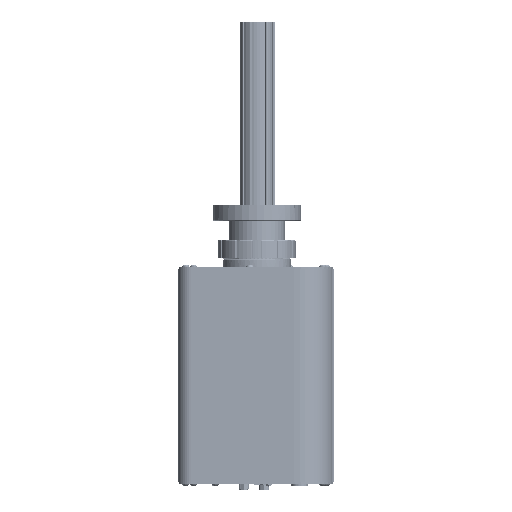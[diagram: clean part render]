
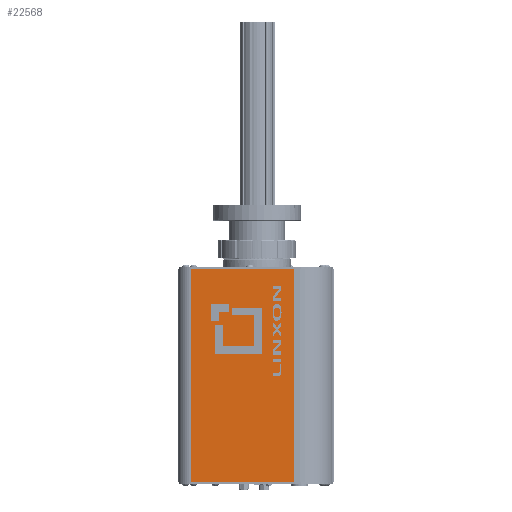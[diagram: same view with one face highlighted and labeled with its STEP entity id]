
A CAD part, left-side view. The second image highlights one B-rep face of the part: STEP entity #22568.
In plain terms, the highlighted planar face has unit normal (-1, 0, 0).
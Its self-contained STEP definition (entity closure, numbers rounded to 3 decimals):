
#5617=FACE_OUTER_BOUND('',#31292,.T.);
#11208=LINE('',#139824,#17299);
#11320=LINE('',#140149,#17411);
#11381=LINE('',#140307,#17472);
#11594=LINE('',#140790,#17685);
#17299=VECTOR('',#91725,1.);
#17411=VECTOR('',#91967,1.);
#17472=VECTOR('',#92072,1.);
#17685=VECTOR('',#92469,1.);
#22568=ADVANCED_FACE('',(#5617),#25158,.T.);
#25158=PLANE('',#76083);
#31292=EDGE_LOOP('',(#48051,#48052,#48053,#48054));
#48051=ORIENTED_EDGE('',*,*,#66946,.F.);
#48052=ORIENTED_EDGE('',*,*,#66865,.F.);
#48053=ORIENTED_EDGE('',*,*,#66705,.T.);
#48054=ORIENTED_EDGE('',*,*,#67200,.T.);
#57087=VERTEX_POINT('',#139823);
#57088=VERTEX_POINT('',#139825);
#57232=VERTEX_POINT('',#140150);
#57307=VERTEX_POINT('',#140308);
#66705=EDGE_CURVE('',#57088,#57087,#11208,.T.);
#66865=EDGE_CURVE('',#57088,#57232,#11320,.T.);
#66946=EDGE_CURVE('',#57232,#57307,#11381,.T.);
#67200=EDGE_CURVE('',#57087,#57307,#11594,.T.);
#76083=AXIS2_PLACEMENT_3D('',#140791,#92470,#92471);
#91725=DIRECTION('',(0.,1.,0.));
#91967=DIRECTION('',(0.,0.,-1.));
#92072=DIRECTION('',(0.,1.,0.));
#92469=DIRECTION('',(0.,0.,-1.));
#92470=DIRECTION('',(-1.,0.,0.));
#92471=DIRECTION('',(0.,-1.,0.));
#139823=CARTESIAN_POINT('',(-57.48,69.723,166.751));
#139824=CARTESIAN_POINT('',(-57.48,-11.179,166.751));
#139825=CARTESIAN_POINT('',(-57.48,-11.179,166.751));
#140149=CARTESIAN_POINT('',(-57.48,-11.179,166.751));
#140150=CARTESIAN_POINT('',(-57.48,-11.179,0.));
#140307=CARTESIAN_POINT('',(-57.48,-11.179,0.));
#140308=CARTESIAN_POINT('',(-57.48,69.723,0.));
#140790=CARTESIAN_POINT('',(-57.48,69.723,166.751));
#140791=CARTESIAN_POINT('',(-57.48,-11.179,166.751));
